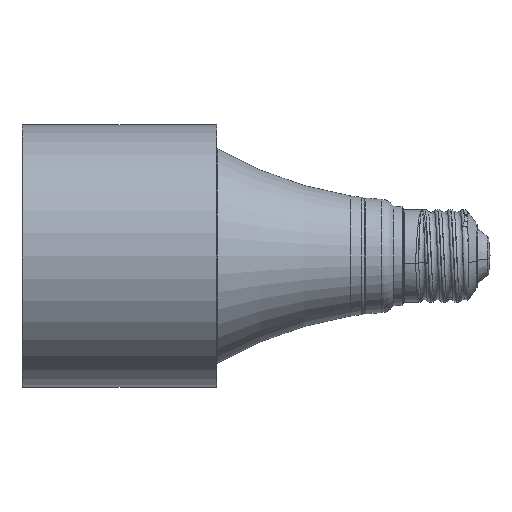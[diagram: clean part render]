
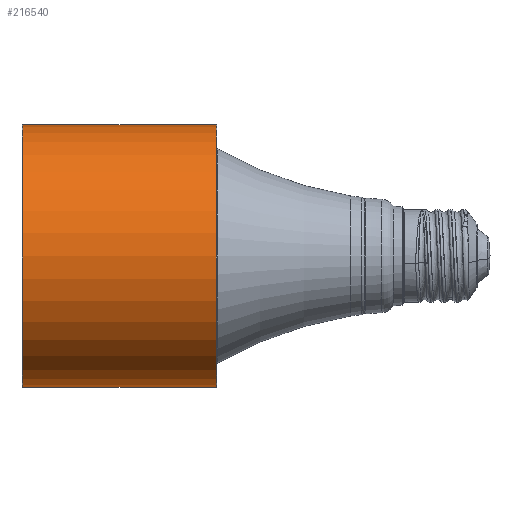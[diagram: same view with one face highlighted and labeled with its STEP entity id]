
A CAD part, left-side view. The second image highlights one B-rep face of the part: STEP entity #216540.
In plain terms, the highlighted cylindrical face has radius 37 mm (diameter 74 mm), a partial arc.
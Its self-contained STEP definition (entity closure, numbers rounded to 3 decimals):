
#215405 = VERTEX_POINT('',#215406);
#215406 = CARTESIAN_POINT('',(-37.,0.,54.8));
#215407 = VERTEX_POINT('',#215408);
#215408 = CARTESIAN_POINT('',(37.,0.,54.8));
#215460 = VERTEX_POINT('',#215461);
#215461 = CARTESIAN_POINT('',(-37.,0.,0.2));
#215469 = VERTEX_POINT('',#215470);
#215470 = CARTESIAN_POINT('',(37.,0.,0.2));
#215536 = EDGE_CURVE('',#215407,#215469,#215537,.T.);
#215537 = LINE('',#215538,#215539);
#215538 = CARTESIAN_POINT('',(37.,0.,55.));
#215539 = VECTOR('',#215540,1.);
#215540 = DIRECTION('',(-0.,-0.,-1.));
#215543 = EDGE_CURVE('',#215405,#215460,#215544,.T.);
#215544 = LINE('',#215545,#215546);
#215545 = CARTESIAN_POINT('',(-37.,0.,55.));
#215546 = VECTOR('',#215547,1.);
#215547 = DIRECTION('',(-0.,-0.,-1.));
#216540 = ADVANCED_FACE('',(#216541),#216559,.T.);
#216541 = FACE_BOUND('',#216542,.T.);
#216542 = EDGE_LOOP('',(#216543,#216544,#216551,#216552));
#216543 = ORIENTED_EDGE('',*,*,#215536,.F.);
#216544 = ORIENTED_EDGE('',*,*,#216545,.T.);
#216545 = EDGE_CURVE('',#215407,#215405,#216546,.T.);
#216546 = CIRCLE('',#216547,37.);
#216547 = AXIS2_PLACEMENT_3D('',#216548,#216549,#216550);
#216548 = CARTESIAN_POINT('',(0.,0.,54.8));
#216549 = DIRECTION('',(0.,0.,-1.));
#216550 = DIRECTION('',(1.,0.,0.));
#216551 = ORIENTED_EDGE('',*,*,#215543,.T.);
#216552 = ORIENTED_EDGE('',*,*,#216553,.T.);
#216553 = EDGE_CURVE('',#215460,#215469,#216554,.T.);
#216554 = CIRCLE('',#216555,37.);
#216555 = AXIS2_PLACEMENT_3D('',#216556,#216557,#216558);
#216556 = CARTESIAN_POINT('',(0.,0.,0.2));
#216557 = DIRECTION('',(0.,0.,1.));
#216558 = DIRECTION('',(1.,0.,-0.));
#216559 = CYLINDRICAL_SURFACE('',#216560,37.);
#216560 = AXIS2_PLACEMENT_3D('',#216561,#216562,#216563);
#216561 = CARTESIAN_POINT('',(0.,0.,55.));
#216562 = DIRECTION('',(-0.,-0.,-1.));
#216563 = DIRECTION('',(-1.,0.,0.));
